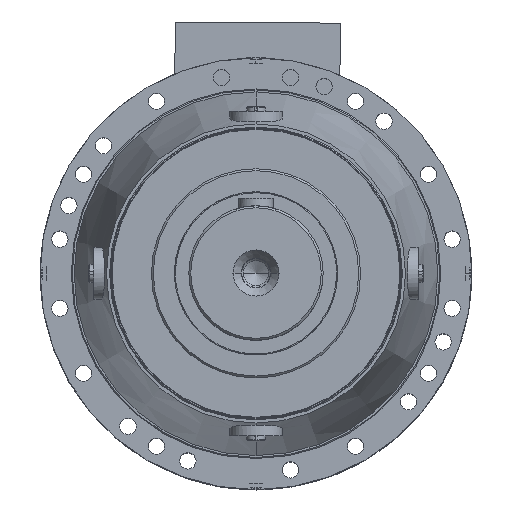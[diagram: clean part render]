
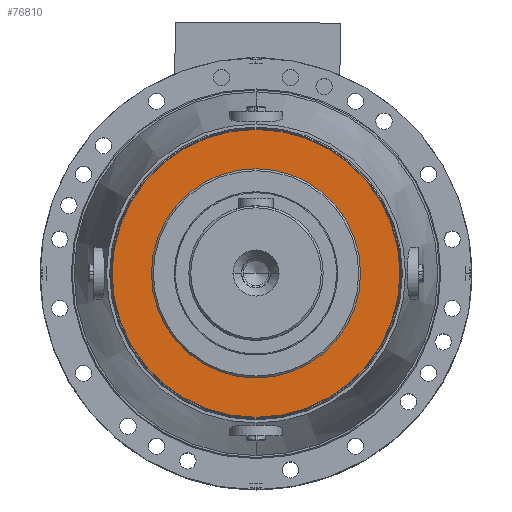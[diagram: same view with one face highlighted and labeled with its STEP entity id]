
A CAD part, top view. The second image highlights one B-rep face of the part: STEP entity #76810.
In plain terms, the highlighted planar face has unit normal (0, 0, 1).
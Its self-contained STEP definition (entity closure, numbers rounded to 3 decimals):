
#13534 = VERTEX_POINT ( 'NONE', #106404 ) ;
#13550 = VERTEX_POINT ( 'NONE', #106399 ) ;
#13571 = VERTEX_POINT ( 'NONE', #106417 ) ;
#13574 = VERTEX_POINT ( 'NONE', #106393 ) ;
#25338 = CIRCLE ( 'NONE', #103945, 150. ) ;
#25413 = CIRCLE ( 'NONE', #103917, 150. ) ;
#25525 = CIRCLE ( 'NONE', #104005, 109. ) ;
#25558 = CIRCLE ( 'NONE', #103914, 109. ) ;
#37679 = ORIENTED_EDGE ( 'NONE', *, *, #57160, .F. ) ;
#37703 = ORIENTED_EDGE ( 'NONE', *, *, #57181, .F. ) ;
#37829 = ORIENTED_EDGE ( 'NONE', *, *, #57152, .F. ) ;
#37850 = ORIENTED_EDGE ( 'NONE', *, *, #57179, .F. ) ;
#48657 = PLANE ( 'NONE',  #109756 ) ;
#48658 = CARTESIAN_POINT ( 'NONE',  ( 0., 150., 220. ) ) ;
#48750 = DIRECTION ( 'NONE',  ( 0., 0., -1. ) ) ;
#48931 = DIRECTION ( 'NONE',  ( 0., 1., 0. ) ) ;
#57152 = EDGE_CURVE ( 'NONE', #13574, #13571, #25338, .T. ) ;
#57160 = EDGE_CURVE ( 'NONE', #13550, #13534, #25525, .T. ) ;
#57179 = EDGE_CURVE ( 'NONE', #13534, #13550, #25558, .T. ) ;
#57181 = EDGE_CURVE ( 'NONE', #13571, #13574, #25413, .T. ) ;
#60701 = EDGE_LOOP ( 'NONE', ( #37829, #37703 ) ) ;
#60871 = EDGE_LOOP ( 'NONE', ( #37679, #37850 ) ) ;
#68039 = FACE_BOUND ( 'NONE', #60871, .T. ) ;
#68042 = FACE_OUTER_BOUND ( 'NONE', #60701, .T. ) ;
#76810 = ADVANCED_FACE ( 'NONE', ( #68039, #68042 ), #48657, .F. ) ;
#88752 = DIRECTION ( 'NONE',  ( 0., 1., 0. ) ) ;
#88768 = CARTESIAN_POINT ( 'NONE',  ( 0., 0., 220. ) ) ;
#88769 = DIRECTION ( 'NONE',  ( 0., 1., 0. ) ) ;
#88770 = CARTESIAN_POINT ( 'NONE',  ( 0., 0., 220. ) ) ;
#88772 = DIRECTION ( 'NONE',  ( 0., 0., -1. ) ) ;
#88775 = DIRECTION ( 'NONE',  ( 0., 0., 1. ) ) ;
#88799 = DIRECTION ( 'NONE',  ( 0., 1., 0. ) ) ;
#88803 = CARTESIAN_POINT ( 'NONE',  ( 0., 0., 220. ) ) ;
#88804 = CARTESIAN_POINT ( 'NONE',  ( 0., 0., 220. ) ) ;
#88807 = DIRECTION ( 'NONE',  ( 0., 1., 0. ) ) ;
#88812 = DIRECTION ( 'NONE',  ( 0., 0., 1. ) ) ;
#88827 = DIRECTION ( 'NONE',  ( 0., 0., -1. ) ) ;
#103914 = AXIS2_PLACEMENT_3D ( 'NONE', #88803, #88812, #88799 ) ;
#103917 = AXIS2_PLACEMENT_3D ( 'NONE', #88804, #88827, #88807 ) ;
#103945 = AXIS2_PLACEMENT_3D ( 'NONE', #88770, #88772, #88752 ) ;
#104005 = AXIS2_PLACEMENT_3D ( 'NONE', #88768, #88775, #88769 ) ;
#106393 = CARTESIAN_POINT ( 'NONE',  ( 0., 150., 220. ) ) ;
#106399 = CARTESIAN_POINT ( 'NONE',  ( 0., 109., 220. ) ) ;
#106404 = CARTESIAN_POINT ( 'NONE',  ( 0., -109., 220. ) ) ;
#106417 = CARTESIAN_POINT ( 'NONE',  ( 0., -150., 220. ) ) ;
#109756 = AXIS2_PLACEMENT_3D ( 'NONE', #48658, #48750, #48931 ) ;
